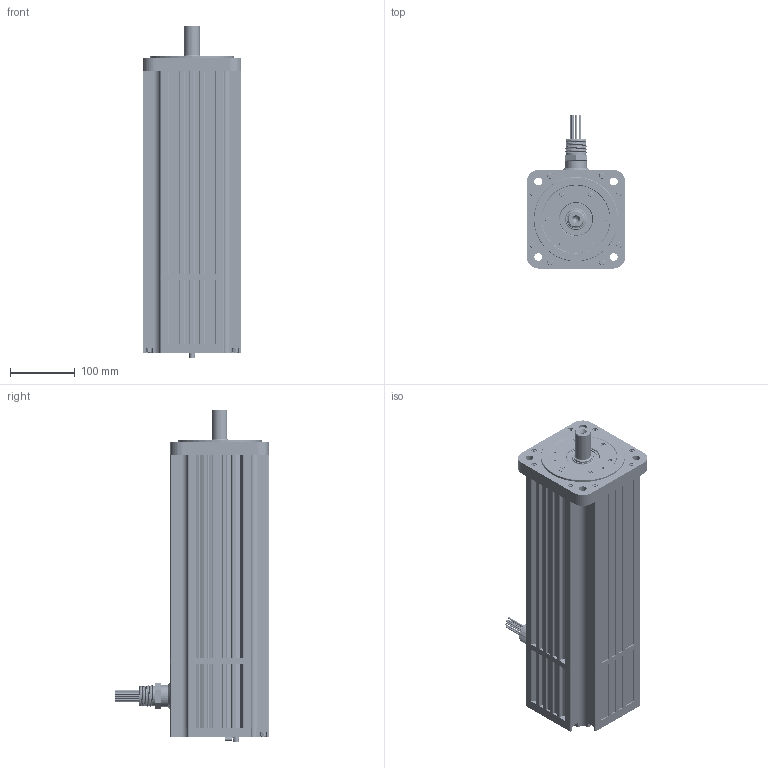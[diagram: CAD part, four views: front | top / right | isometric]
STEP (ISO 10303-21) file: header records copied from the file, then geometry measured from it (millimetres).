
FILE_DESCRIPTION (( 'STEP AP203' ), '1' );
FILE_NAME ('073393A.STEP', '2021-04-06T14:32:11', ( '' ), ( '' ), 'SwSTEP 2.0', 'SolidWorks 2019', '' );
FILE_SCHEMA (( 'CONFIG_CONTROL_DESIGN' ));
Products named in the file (1): 073393A
Bounding box: 152.4 x 238 x 512.7 mm (x, y, z)
Volume: 6794592.9 mm3; surface area: 1392835.9 mm2
Topology: 161 solids, 161 shells, 5916 faces, 14989 edges, 9554 vertices
Faces by surface type: cylinder 2619, plane 2335, cone 524, torus 245, bspline 187, sphere 6
Entity records: 193398 total; most frequent: CARTESIAN_POINT 48256, DIRECTION 31340, ORIENTED_EDGE 29762, EDGE_CURVE 14881, AXIS2_PLACEMENT_3D 11743, VERTEX_POINT 9554, VECTOR 7854, LINE 7854
